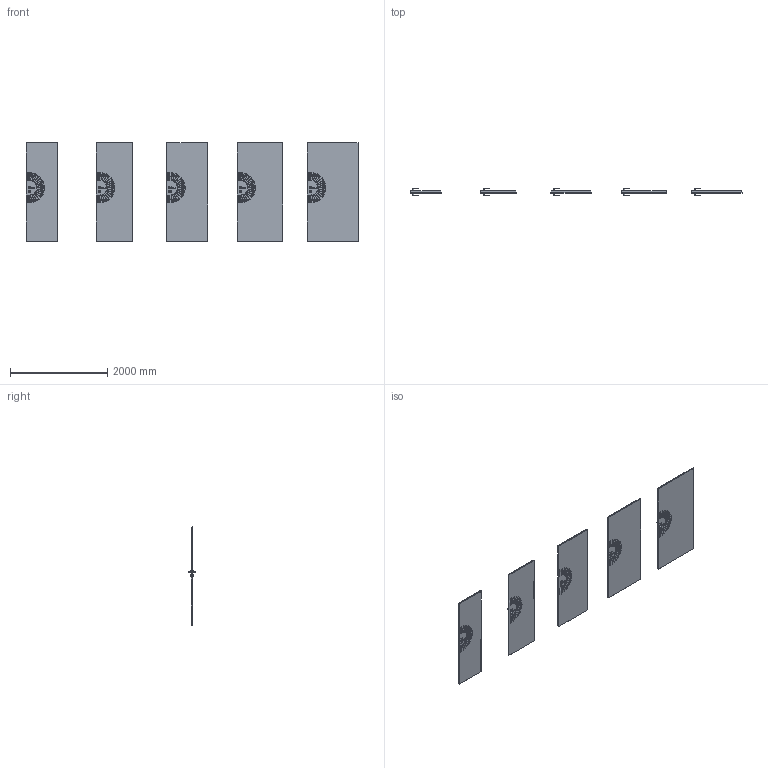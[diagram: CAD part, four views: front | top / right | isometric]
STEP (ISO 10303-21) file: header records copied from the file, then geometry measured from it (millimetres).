
FILE_DESCRIPTION(/* description */ (''),/* implementation_level */ '2;1');
FILE_NAME(/* name */ '049839_A_2-Skrzydło ART DECO model 2_ polska norma _PN__ przylgowe..stp',/* time_stamp */ '2024-08-30T14:54:04+02:00',/* author */ (''),/* organization */ (''),/* preprocessor_version */ 'ST-DEVELOPER v16',/* originating_system */ 'SIEMENS PLM Software NX 11.0',/* authorisation */ '');
FILE_SCHEMA (('AUTOMOTIVE_DESIGN { 1 0 10303 214 3 1 1 1 }'));
Products named in the file (1): bkni5038E11A0x6u
Bounding box: 6844 x 153.13 x 2030 mm (x, y, z)
Volume: 328229480.5 mm3; surface area: 18542412.5 mm2
Topology: 25 solids, 25 shells, 2300 faces, 5750 edges, 3400 vertices
Faces by surface type: plane 800, cylinder 780, torus 280, bspline 160, sphere 140, cone 140
Entity records: 72929 total; most frequent: CARTESIAN_POINT 18331, DIRECTION 11872, ORIENTED_EDGE 11220, EDGE_CURVE 5610, AXIS2_PLACEMENT_3D 4421, VERTEX_POINT 3400, LINE 3030, VECTOR 3030
